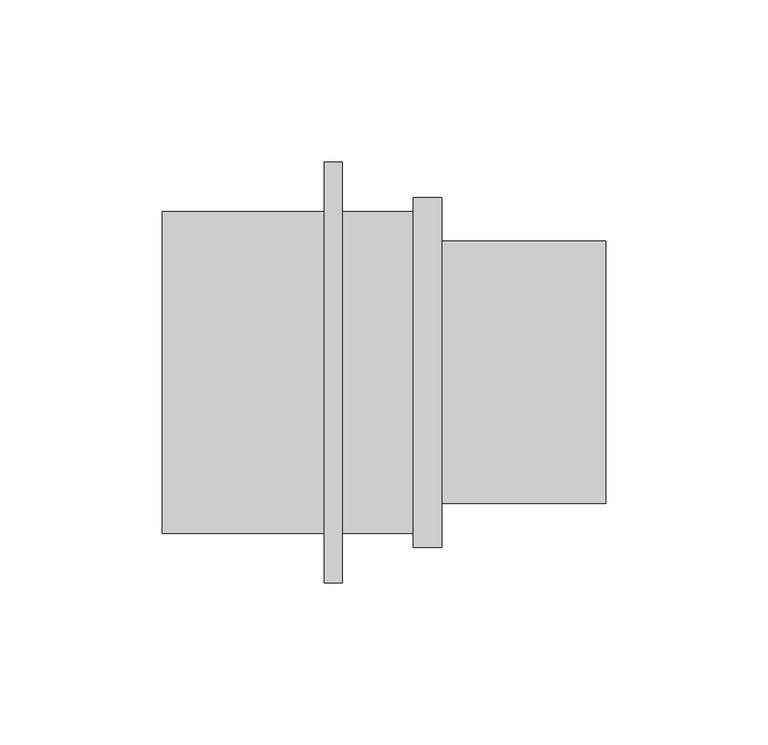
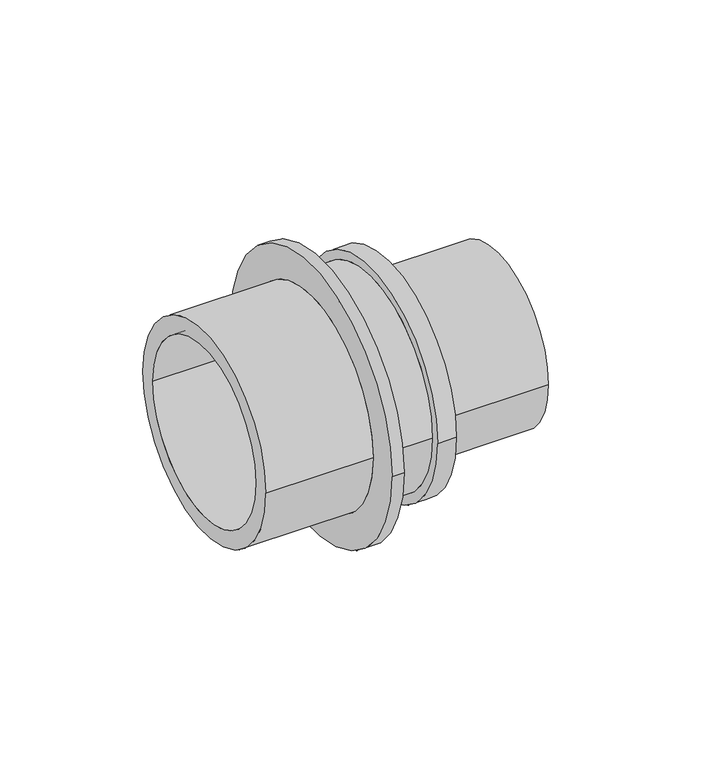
"""IFC4 building model written with IfcOpenShell, lengths in millimetres: pipe fitting geometry, Coupling transistion : C RE SDR11 RX."""

import ifcopenshell
import ifcopenshell.guid

model = None  # the IFC model being written
_history = None  # IfcOwnerHistory: only IFC2X3 demands one
_inside = {}  # id of a spatial element -> (the spatial element, [elements in it])
_under = {}  # id of a project, library or spatial element -> (it, [spatial elements below it])
_declared = {}  # id of a project -> (the project, [libraries it declares])
_typed = {}  # id of a type object -> (the type object, [elements of that type])
_made_of = {}  # id of a material, layer set ... -> (it, [elements and type objects made of it])


def new_model(schema):
    """Start an empty IFC model of exactly this schema.

    Asked for "IFC4X3", IfcOpenShell would pick the latest addendum, in which some entities
    have other attributes; the version numbers below select the first issue.
    IFC2X3 requires an IfcOwnerHistory on every rooted entity: one is made here for all.
    """
    global model, _history
    if schema == "IFC4X3":
        model = ifcopenshell.file(schema_version=(4, 3, 0, 0))
    else:
        model = ifcopenshell.file(schema=schema)
    _inside.clear()
    _under.clear()
    _declared.clear()
    _typed.clear()
    _made_of.clear()
    _history = None
    if model.schema == "IFC2X3":
        org = make("IfcOrganization", Name="unknown")
        user = make(
            "IfcPersonAndOrganization",
            ThePerson=make("IfcPerson", FamilyName="unknown"),
            TheOrganization=org,
        )
        app = make(
            "IfcApplication",
            ApplicationDeveloper=org,
            Version="unknown",
            ApplicationFullName="unknown",
            ApplicationIdentifier="unknown",
        )
        _history = make(
            "IfcOwnerHistory",
            OwningUser=user,
            OwningApplication=app,
            ChangeAction="ADDED",
            CreationDate=0,
        )
    return model


def make(cls, **values):
    """One entity of the class cls with the attributes given. An attribute that is None is left unset."""
    return model.create_entity(
        cls, **{name: value for name, value in values.items() if value is not None}
    )


def rooted(cls, **values):
    """An entity with a GlobalId (a new one), such as an element, a storey or a relation."""
    return make(cls, GlobalId=ifcopenshell.guid.new(), OwnerHistory=_history, **values)


def si_unit(unit_type, name, prefix=None):
    """IfcSIUnit, for example si_unit("LENGTHUNIT", "METRE", prefix="MILLI")."""
    return make("IfcSIUnit", UnitType=unit_type, Prefix=prefix, Name=name)


def assignment(units):
    """IfcUnitAssignment: the units of a project."""
    return None if units is None else make("IfcUnitAssignment", Units=units)


def point(xyz):
    """IfcCartesianPoint."""
    return None if xyz is None else make("IfcCartesianPoint", Coordinates=xyz)


def direction(xyz):
    """IfcDirection."""
    return None if xyz is None else make("IfcDirection", DirectionRatios=xyz)


def frame(location, z_axis=None, x_axis=None):
    """IfcAxis2Placement3D, a coordinate frame: its origin and axes. An axis left out is left unset."""
    return make(
        "IfcAxis2Placement3D",
        Location=point(location),
        Axis=direction(z_axis),
        RefDirection=direction(x_axis),
    )


def origin():
    """The frame at (0, 0, 0) with its axes left unset."""
    return frame((0.0, 0.0, 0.0))


def place(relative_to, where):
    """IfcLocalPlacement: puts the frame where relative to a parent placement (None: the world)."""
    return make(
        "IfcLocalPlacement", PlacementRelTo=relative_to, RelativePlacement=where
    )


def context(
    kind, dimensions, precision=None, world=None, true_north=None, identifier=None
):
    """IfcGeometricRepresentationContext, for example the 3D "Model" context."""
    return make(
        "IfcGeometricRepresentationContext",
        ContextIdentifier=identifier,
        ContextType=kind,
        CoordinateSpaceDimension=dimensions,
        Precision=precision,
        WorldCoordinateSystem=world,
        TrueNorth=true_north,
    )


def project(units=None, contexts=None):
    """IfcProject with its units and contexts."""
    return rooted(
        "IfcProject",
        Name="project",
        RepresentationContexts=contexts,
        UnitsInContext=assignment(units),
    )


def spatial(cls, under=None, at=None, **own):
    """A site, building, storey or space (cls), placed at a placement, below another one or the project."""
    s = rooted(cls, ObjectPlacement=at, **own)
    if under is not None:
        _under.setdefault(under.id(), (under, []))[1].append(s)
    return s


def polyline(points):
    """IfcPolyline through the points."""
    return make("IfcPolyline", Points=[point(p) for p in points])


def circle_curve(where, radius):
    """IfcCircle in the frame where."""
    return make("IfcCircle", Position=where, Radius=radius)


def shape(context_of_items, identifier, shape_type, items):
    """IfcShapeRepresentation: the items that make up one representation, for example the "Body"."""
    return make(
        "IfcShapeRepresentation",
        ContextOfItems=context_of_items,
        RepresentationIdentifier=identifier,
        RepresentationType=shape_type,
        Items=items,
    )


def source(mapping_origin, context_of_items, identifier, shape_type, items):
    """IfcRepresentationMap: a shape defined once, which mapped items show again and again."""
    return make(
        "IfcRepresentationMap",
        MappingOrigin=mapping_origin,
        MappedRepresentation=shape(context_of_items, identifier, shape_type, items),
    )


def transform(
    local_origin,
    x_axis=None,
    y_axis=None,
    z_axis=None,
    scale=None,
    scale2=None,
    scale3=None,
    uniform=True,
):
    """IfcCartesianTransformationOperator3D, or its non-uniform kind. x_axis, y_axis, z_axis: its Axis1, 2, 3."""
    if uniform:
        return make(
            "IfcCartesianTransformationOperator3D",
            Axis1=direction(x_axis),
            Axis2=direction(y_axis),
            LocalOrigin=point(local_origin),
            Scale=scale,
            Axis3=direction(z_axis),
        )
    return make(
        "IfcCartesianTransformationOperator3DnonUniform",
        Axis1=direction(x_axis),
        Axis2=direction(y_axis),
        LocalOrigin=point(local_origin),
        Scale=scale,
        Axis3=direction(z_axis),
        Scale2=scale2,
        Scale3=scale3,
    )


def mapped(mapping_source, mapping_target):
    """IfcMappedItem: shows the shape of a source again, moved by a transform."""
    return make(
        "IfcMappedItem", MappingSource=mapping_source, MappingTarget=mapping_target
    )


def made_of(thing, what):
    """Note that an element or type object is made of a material, layer set ...; save() writes the relation."""
    if what is not None:
        _made_of.setdefault(what.id(), (what, []))[1].append(thing)
    return thing


def element(
    cls,
    number,
    at=None,
    inside=None,
    cuts=None,
    type_object=None,
    material=None,
    context=None,
    identifier="Body",
    shape_type=None,
    held_by="IfcProductDefinitionShape",
    body=None,
    shapes=None,
    **own,
):
    """One element of the class cls, such as IfcWall. Its Tag is "e" and its number.

    at: its placement. inside: the storey or other place that contains it. cuts: it is an
    opening in that element (IfcRelVoidsElement). A single representation is given by context,
    identifier, shape_type and body (its items); several are given by shapes. held_by: the class
    of the entity that holds the representations. save() writes the other relations.
    """
    e = rooted(cls, Tag="e%d" % number, ObjectPlacement=at, **own)
    if body is not None:
        shapes = [shape(context, identifier, shape_type, body)]
    if shapes is not None:
        e.Representation = make(held_by, Representations=shapes)
    if inside is not None:
        _inside.setdefault(inside.id(), (inside, []))[1].append(e)
    if cuts is not None:
        rooted(
            "IfcRelVoidsElement", RelatingBuildingElement=cuts, RelatedOpeningElement=e
        )
    if type_object is not None:
        _typed.setdefault(type_object.id(), (type_object, []))[1].append(e)
    return made_of(e, material)


def aggregate(whole, parts):
    """IfcRelAggregates: a whole, such as a stair, and the parts it consists of."""
    return rooted("IfcRelAggregates", RelatingObject=whole, RelatedObjects=parts)


def save(model, path):
    """Write the relations noted so far, then the file.

    IfcRelAggregates (storeys below a building ...), IfcRelContainedInSpatialStructure (elements
    in a storey), IfcRelDefinesByType, IfcRelAssociatesMaterial and IfcRelDeclares: one each for
    every whole, place, type object, material and project.
    """
    for whole, parts in _under.values():
        aggregate(whole, parts)
    for where, things in _inside.values():
        rooted(
            "IfcRelContainedInSpatialStructure",
            RelatedElements=things,
            RelatingStructure=where,
        )
    for kind, things in _typed.values():
        rooted("IfcRelDefinesByType", RelatedObjects=things, RelatingType=kind)
    for what, things in _made_of.values():
        rooted("IfcRelAssociatesMaterial", RelatedObjects=things, RelatingMaterial=what)
    for by, libraries in _declared.values():
        rooted("IfcRelDeclares", RelatingContext=by, RelatedDefinitions=libraries)
    model.write(path)


def plane_surface(at):
    """IfcPlane: the flat surface through the origin of the frame at, square to its z axis."""
    return make("IfcPlane", Position=at)


def cylinder_surface(at, radius):
    """IfcCylindricalSurface: all points at the distance radius from the z axis of the frame at."""
    return make("IfcCylindricalSurface", Position=at, Radius=radius)


def revolved_surface(curve, axis_point, axis_direction):
    """IfcSurfaceOfRevolution: the curve turned about the line through axis_point along axis_direction."""
    return make(
        "IfcSurfaceOfRevolution",
        SweptCurve=make("IfcArbitraryOpenProfileDef", ProfileType="CURVE", Curve=curve),
        AxisPosition=make("IfcAxis1Placement", Location=point(axis_point), Axis=direction(axis_direction)),
    )


def advanced_brep(points, edges, surfaces, faces):
    """IfcAdvancedBrep: a solid bounded by faces that lie on surfaces and meet in shared edges.

    An edge is (start, end): straight between two places in points (the first is 0);
    or (start, end, curve); or (start, end, curve, False) where it runs against its curve.
    A face is (place in surfaces, loops), or (place, loops, False) where it looks against
    its surface's normal. A loop lists edges by number (the first is 1), with a minus sign
    where the edge is run from its end to its start. The first loop is the outer one.
    """
    corners = [point(p) for p in points]
    vertices = [make("IfcVertexPoint", VertexGeometry=c) for c in corners]
    made = []
    for start, end, *more in edges:
        made.append(
            make(
                "IfcEdgeCurve",
                EdgeStart=vertices[start],
                EdgeEnd=vertices[end],
                EdgeGeometry=more[0] if more else make("IfcPolyline", Points=[corners[start], corners[end]]),
                SameSense=more[1] if len(more) > 1 else True,
            )
        )
    hull = []
    for where, loops, *sense in faces:
        bounds = []
        for j, loop in enumerate(loops):
            ring = [make("IfcOrientedEdge", EdgeElement=made[abs(k) - 1], Orientation=k > 0) for k in loop]
            bounds.append(
                make(
                    "IfcFaceOuterBound" if j == 0 else "IfcFaceBound",
                    Bound=make("IfcEdgeLoop", EdgeList=ring),
                    Orientation=True,
                )
            )
        hull.append(make("IfcAdvancedFace", Bounds=bounds, FaceSurface=surfaces[where], SameSense=sense[0] if sense else True))
    return make("IfcAdvancedBrep", Outer=make("IfcClosedShell", CfsFaces=hull))


def pipe_fitting_7b38b3fe(model_context):
    return source(origin(), model_context, "Body", "AdvancedBrep", [
        advanced_brep(
        [(-18.5, 49.65, 0.0), (-18.5, -49.65, 0.0), (-68.5, -49.65, 0.0), (-68.5, 49.65, 0.0), (-12.9, 65.0, 0.0), (-12.9, -65.0, 0.0), (-18.5, -65.0, 0.0), (-18.5, 65.0, 0.0), (9.1, 49.65, 0.0), (9.1, -49.65, 0.0), (-12.9, -49.65, 0.0), (-12.9, 49.65, 0.0), (17.8, 54.0, 0.0), (17.8, -54.0, 0.0), (9.1, -54.0, 0.0), (9.1, 54.0, 0.0), (68.5, 40.5, 0.0), (68.5, -40.5, 0.0), (17.8, -40.5, 0.0), (17.8, 40.5, 0.0), (0.0, 34.5, 0.0), (0.0, -34.5, 0.0), (68.5, -34.5, 0.0), (68.5, 34.5, 0.0), (-68.5, 41.5, 0.0), (-68.5, -41.5, 0.0), (0.0, -41.5, 0.0), (0.0, 41.5, 0.0)],
        [
            (0, 1, circle_curve(frame((-18.5, 0.0, 0.0), z_axis=(-1.0, 0.0, 0.0), x_axis=(0.0, -1.0, 0.0)), 49.65)),
            (1, 2),
            (2, 3, circle_curve(frame((-68.5, 0.0, 0.0), z_axis=(1.0, 0.0, 0.0), x_axis=(0.0, -1.0, 0.0)), 49.65)),
            (3, 0),
            (4, 5, circle_curve(frame((-12.9, 0.0, 0.0), z_axis=(-1.0, 0.0, 0.0), x_axis=(0.0, -1.0, 0.0)), 65.0)),
            (5, 6),
            (6, 7, circle_curve(frame((-18.5, 0.0, 0.0), z_axis=(1.0, 0.0, 0.0), x_axis=(0.0, -1.0, 0.0)), 65.0)),
            (7, 4),
            (8, 9, circle_curve(frame((9.1, 0.0, 0.0), z_axis=(-1.0, 0.0, 0.0), x_axis=(0.0, -1.0, 0.0)), 49.65)),
            (9, 10),
            (10, 11, circle_curve(frame((-12.9, 0.0, 0.0), z_axis=(1.0, 0.0, 0.0), x_axis=(0.0, -1.0, 0.0)), 49.65)),
            (11, 8),
            (12, 13, circle_curve(frame((17.8, 0.0, 0.0), z_axis=(-1.0, 0.0, 0.0), x_axis=(0.0, -1.0, 0.0)), 54.0)),
            (13, 14),
            (14, 15, circle_curve(frame((9.1, 0.0, 0.0), z_axis=(1.0, 0.0, 0.0), x_axis=(0.0, -1.0, 0.0)), 54.0)),
            (15, 12),
            (16, 17, circle_curve(frame((68.5, 0.0, 0.0), z_axis=(-1.0, 0.0, 0.0), x_axis=(0.0, -1.0, 0.0)), 40.5)),
            (17, 18),
            (18, 19, circle_curve(frame((17.8, 0.0, 0.0), z_axis=(1.0, 0.0, 0.0), x_axis=(0.0, -1.0, 0.0)), 40.5)),
            (19, 16),
            (20, 21, circle_curve(frame((0.0, 0.0, 0.0), z_axis=(-1.0, 0.0, 0.0), x_axis=(0.0, -1.0, 0.0)), 34.5)),
            (21, 22),
            (22, 23, circle_curve(frame((68.5, 0.0, 0.0), z_axis=(1.0, 0.0, 0.0), x_axis=(0.0, -1.0, 0.0)), 34.5)),
            (23, 20),
            (24, 25, circle_curve(frame((-68.5, 0.0, 0.0), z_axis=(-1.0, 0.0, 0.0), x_axis=(0.0, -1.0, 0.0)), 41.5)),
            (25, 26),
            (26, 27, circle_curve(frame((0.0, 0.0, 0.0), z_axis=(1.0, 0.0, 0.0), x_axis=(0.0, -1.0, 0.0)), 41.5)),
            (27, 24),
            (2, 3, circle_curve(frame((-68.5, 0.0, 0.0), z_axis=(-1.0, 0.0, 0.0), x_axis=(0.0, 1.0, 0.0)), 49.65)),
            (24, 25, circle_curve(frame((-68.5, 0.0, 0.0), z_axis=(1.0, 0.0, 0.0), x_axis=(0.0, 1.0, 0.0)), 41.5)),
            (1, 0, circle_curve(frame((-18.5, 0.0, 0.0), z_axis=(-1.0, 0.0, 0.0), x_axis=(0.0, 1.0, 0.0)), 49.65)),
            (6, 7, circle_curve(frame((-18.5, 0.0, 0.0), z_axis=(-1.0, 0.0, 0.0), x_axis=(0.0, 1.0, 0.0)), 65.0)),
            (5, 4, circle_curve(frame((-12.9, 0.0, 0.0), z_axis=(-1.0, 0.0, 0.0), x_axis=(0.0, 1.0, 0.0)), 65.0)),
            (10, 11, circle_curve(frame((-12.9, 0.0, 0.0), z_axis=(-1.0, 0.0, 0.0), x_axis=(0.0, 1.0, 0.0)), 49.65)),
            (9, 8, circle_curve(frame((9.1, 0.0, 0.0), z_axis=(-1.0, 0.0, 0.0), x_axis=(0.0, 1.0, 0.0)), 49.65)),
            (14, 15, circle_curve(frame((9.1, 0.0, 0.0), z_axis=(-1.0, 0.0, 0.0), x_axis=(0.0, 1.0, 0.0)), 54.0)),
            (13, 12, circle_curve(frame((17.8, 0.0, 0.0), z_axis=(-1.0, 0.0, 0.0), x_axis=(0.0, 1.0, 0.0)), 54.0)),
            (18, 19, circle_curve(frame((17.8, 0.0, 0.0), z_axis=(-1.0, 0.0, 0.0), x_axis=(0.0, 1.0, 0.0)), 40.5)),
            (17, 16, circle_curve(frame((68.5, 0.0, 0.0), z_axis=(-1.0, 0.0, 0.0), x_axis=(0.0, 1.0, 0.0)), 40.5)),
            (22, 23, circle_curve(frame((68.5, 0.0, 0.0), z_axis=(-1.0, 0.0, 0.0), x_axis=(0.0, 1.0, 0.0)), 34.5)),
            (21, 20, circle_curve(frame((0.0, 0.0, 0.0), z_axis=(-1.0, 0.0, 0.0), x_axis=(0.0, 1.0, 0.0)), 34.5)),
            (26, 27, circle_curve(frame((0.0, 0.0, 0.0), z_axis=(-1.0, 0.0, 0.0), x_axis=(0.0, 1.0, 0.0)), 41.5)),
        ],
        [
            cylinder_surface(frame((0.0, 0.0, 0.0), z_axis=(1.0, 0.0, 0.0), x_axis=(0.0, -1.0, 0.0)), 49.65),
            cylinder_surface(frame((0.0, 0.0, 0.0), z_axis=(1.0, 0.0, 0.0), x_axis=(0.0, -1.0, 0.0)), 65.0),
            cylinder_surface(frame((0.0, 0.0, 0.0), z_axis=(1.0, 0.0, 0.0), x_axis=(0.0, -1.0, 0.0)), 54.0),
            cylinder_surface(frame((0.0, 0.0, 0.0), z_axis=(1.0, 0.0, 0.0), x_axis=(0.0, -1.0, 0.0)), 40.5),
            revolved_surface(polyline([(68.5, -34.5, 0.0), (0.0, -34.5, 0.0)]), (0.0, 0.0, 0.0), (1.0, 0.0, 0.0)),
            revolved_surface(polyline([(0.0, -41.5, 0.0), (-68.5, -41.5, 0.0)]), (0.0, 0.0, 0.0), (1.0, 0.0, 0.0)),
            plane_surface(frame((-68.5, 0.0, 0.0), z_axis=(-1.0, 0.0, 0.0), x_axis=(0.0, 1.0, 0.0))),
            cylinder_surface(frame((0.0, 0.0, 0.0), z_axis=(1.0, 0.0, 0.0), x_axis=(0.0, 1.0, 0.0)), 49.65),
            plane_surface(frame((-18.5, 0.0, 0.0), z_axis=(-1.0, 0.0, 0.0), x_axis=(0.0, 1.0, 0.0))),
            cylinder_surface(frame((0.0, 0.0, 0.0), z_axis=(1.0, 0.0, 0.0), x_axis=(0.0, 1.0, 0.0)), 65.0),
            plane_surface(frame((-12.9, 0.0, 0.0), z_axis=(1.0, 0.0, 0.0), x_axis=(0.0, 1.0, 0.0))),
            plane_surface(frame((9.1, 0.0, 0.0), z_axis=(-1.0, 0.0, 0.0), x_axis=(0.0, 1.0, 0.0))),
            cylinder_surface(frame((0.0, 0.0, 0.0), z_axis=(1.0, 0.0, 0.0), x_axis=(0.0, 1.0, 0.0)), 54.0),
            plane_surface(frame((17.8, 0.0, 0.0), z_axis=(1.0, 0.0, 0.0), x_axis=(0.0, 1.0, 0.0))),
            cylinder_surface(frame((0.0, 0.0, 0.0), z_axis=(1.0, 0.0, 0.0), x_axis=(0.0, 1.0, 0.0)), 40.5),
            plane_surface(frame((68.5, 0.0, 0.0), z_axis=(1.0, 0.0, 0.0), x_axis=(0.0, 1.0, 0.0))),
            revolved_surface(polyline([(68.5, 34.5, 0.0), (0.0, 34.5, 0.0)]), (0.0, 0.0, 0.0), (1.0, 0.0, 0.0)),
            plane_surface(frame((0.0, 0.0, 0.0), z_axis=(-1.0, 0.0, 0.0), x_axis=(0.0, 1.0, 0.0))),
            revolved_surface(polyline([(0.0, 41.5, 0.0), (-68.5, 41.5, 0.0)]), (0.0, 0.0, 0.0), (1.0, 0.0, 0.0)),
        ],
        [
            (0, [[1, 2, 3, 4]]),
            (1, [[5, 6, 7, 8]]),
            (0, [[9, 10, 11, 12]]),
            (2, [[13, 14, 15, 16]]),
            (3, [[17, 18, 19, 20]]),
            (4, [[21, 22, 23, 24]]),
            (5, [[25, 26, 27, 28]]),
            (6, [[29, -3], [30, -25]]),
            (7, [[31, -4, -29, -2]]),
            (8, [[32, -7], [-31, -1]]),
            (9, [[33, -8, -32, -6]]),
            (10, [[-33, -5], [34, -11]]),
            (7, [[35, -12, -34, -10]]),
            (11, [[36, -15], [-35, -9]]),
            (12, [[37, -16, -36, -14]]),
            (13, [[-37, -13], [38, -19]]),
            (14, [[39, -20, -38, -18]]),
            (15, [[-39, -17], [40, -23]]),
            (16, [[41, -24, -40, -22]]),
            (17, [[42, -27], [-41, -21]]),
            (18, [[-30, -28, -42, -26]]),
        ],
    ),
    ])


if __name__ == "__main__":
    model = new_model("IFC4")
    model_context = context("Model", 3, world=origin())
    ifc_project = project(units=[si_unit("LENGTHUNIT", "METRE", prefix="MILLI")], contexts=[model_context])
    site = spatial("IfcSite", under=ifc_project)
    building = spatial("IfcBuilding", under=site)
    placement = place(None, origin())
    pipe_fitting_shape = pipe_fitting_7b38b3fe(model_context)
    element("IfcPipeFitting", 1, ObjectType="Coupling transistion : C RE SDR11 RX", at=placement, inside=building, context=model_context, shape_type="MappedRepresentation", body=[
        mapped(pipe_fitting_shape, transform((0.0, 0.0, 0.0), x_axis=(1.0, 0.0, 0.0), y_axis=(0.0, 1.0, 0.0), z_axis=(0.0, 0.0, 1.0))),
    ])
    save(model, "model.ifc")
